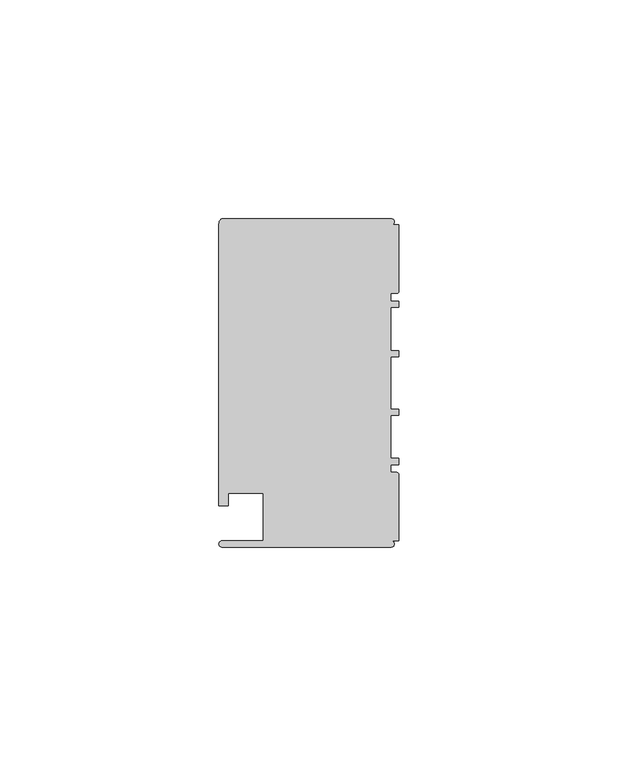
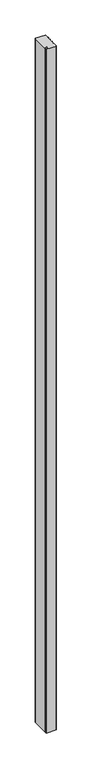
"""IFC4 building model written with IfcOpenShell, lengths in millimetres: member geometry, Прямоугольный импост : 1-AMG-1-Профиль 40Х75 Верх П."""

from ifc_helpers import new_model, si_unit, point, frame, frame_2d, origin, place, context, project, spatial, polyline, circle_curve, trimmed, segment, composite_curve, outline, extrude, source, transform, mapped, element, save


def member_679ae571(model_context):
    return source(origin(), model_context, "Body", "SweptSolid", [
        extrude(outline(composite_curve([segment(polyline([(-1.7, -37.5), (-40.4, -37.5)]), True, "CONTINUOUS"), segment(trimmed(circle_curve(frame_2d((-40.4, -36.8)), 0.7), [point((-40.4, -37.5))], [point((-40.4, -36.1))], False, "CARTESIAN"), True, "CONTINUOUS"), segment(polyline([(-40.4, -36.1), (-31.0, -36.1), (-31.0, -25.25), (-39.0, -25.25), (-39.0, -28.1), (-41.1, -28.1), (-41.1, 36.1)]), True, "CONTINUOUS"), segment(trimmed(circle_curve(frame_2d((-39.7541527, 36.3020763)), 1.3609334), [point((-41.1, 36.1))], [point((-40.4, 37.5))], False, "CARTESIAN"), True, "CONTINUOUS"), segment(polyline([(-40.4, 37.5), (-1.7, 37.5)]), True, "CONTINUOUS"), segment(trimmed(circle_curve(frame_2d((-1.7, 36.8)), 0.7), [point((-1.7, 37.5))], [point((-1.7, 36.1))], False, "CARTESIAN"), True, "CONTINUOUS"), segment(polyline([(-1.7, 36.1), (0.0, 36.1), (0.0, 20.95)]), True, "CONTINUOUS"), segment(trimmed(circle_curve(frame_2d((-0.5, 20.95)), 0.5), [point((0.0, 20.95))], [point((-0.5, 20.45))], False, "CARTESIAN"), True, "CONTINUOUS"), segment(polyline([(-0.5, 20.45), (-1.8, 20.45), (-1.8, 18.65), (0.0, 18.65), (0.0, 17.25), (-1.8, 17.25), (-1.8, 7.4), (0.0, 7.4), (0.0, 6.0), (-1.8, 6.0), (-1.8, -6.0), (0.0, -6.0), (0.0, -7.4), (-1.8, -7.4), (-1.8, -17.25), (0.0, -17.25), (0.0, -18.65), (-1.8, -18.65), (-1.8, -20.45), (-0.5, -20.45)]), True, "CONTINUOUS"), segment(trimmed(circle_curve(frame_2d((-0.5, -20.95)), 0.5), [point((-0.5, -20.45))], [point((0.0, -20.95))], False, "CARTESIAN"), True, "CONTINUOUS"), segment(polyline([(0.0, -20.95), (0.0, -36.1), (-1.7, -36.1)]), True, "CONTINUOUS"), segment(trimmed(circle_curve(frame_2d((-1.7, -36.8)), 0.7), [point((-1.7, -36.1))], [point((-1.7, -37.5))], False, "CARTESIAN"), True, "CONTINUOUS")], self_intersect=False)), frame((0.0, 0.0, -2800.0), z_axis=(0.0, 0.0, 1.0), x_axis=(1.0, 0.0, 0.0)), (0.0, 0.0, 1.0), 2800.0),
    ])


if __name__ == "__main__":
    model = new_model("IFC4")
    model_context = context("Model", 3, world=origin())
    ifc_project = project(units=[si_unit("LENGTHUNIT", "METRE", prefix="MILLI")], contexts=[model_context])
    site = spatial("IfcSite", under=ifc_project)
    building = spatial("IfcBuilding", under=site)
    placement = place(None, origin())
    member_shape = member_679ae571(model_context)
    element("IfcMember", 1, ObjectType="Прямоугольный импост : 1-AMG-1-Профиль 40Х75 Верх П", at=placement, inside=building, context=model_context, shape_type="MappedRepresentation", body=[
        mapped(member_shape, transform((0.0, 0.0, 0.0), x_axis=(1.0, 0.0, 0.0), y_axis=(0.0, 1.0, 0.0), z_axis=(0.0, 0.0, 1.0))),
    ])
    save(model, "model.ifc")
